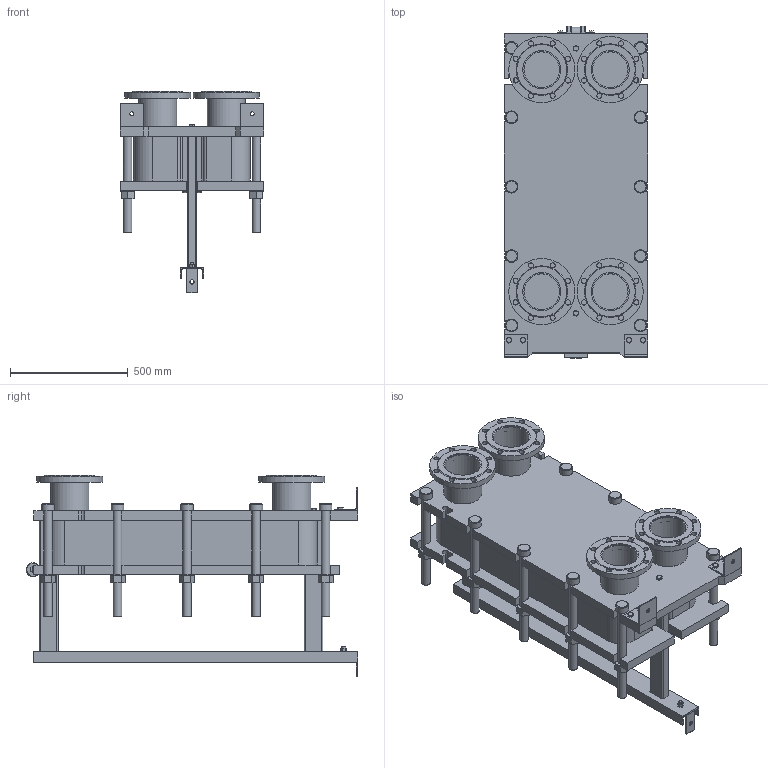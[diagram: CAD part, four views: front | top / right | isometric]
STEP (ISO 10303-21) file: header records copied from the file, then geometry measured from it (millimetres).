
FILE_DESCRIPTION(/* description */ (''),/* implementation_level */ '2;1');
FILE_NAME(/* name */ 'C:\Users\zhuro\Desktop\ENCO\TO\ЭН-041\ЭН-0,5-041-55-1.stp',/* time_stamp */ '2022-06-06T10:53:32+03:00',/* author */ ('zhuro'),/* organization */ (''),/* preprocessor_version */ 'ST-DEVELOPER v18.1',/* originating_system */ 'Autodesk Inventor 2022',/* authorisation */ '');
FILE_SCHEMA (('AUTOMOTIVE_DESIGN { 1 0 10303 214 3 1 1 }'));
Length unit declared in the file: millimetre
Products named in the file (1): ЭН-0,5-041-55-1
Bounding box: 610 x 1406.5 x 852.5 mm (x, y, z)
Volume: 184033360.4 mm3; surface area: 8032298 mm2
Topology: 52 solids, 52 shells, 711 faces, 1696 edges, 1094 vertices
Faces by surface type: plane 487, cylinder 177, cone 41, torus 6
Full cylindrical faces by diameter (mm): 8 x4, 10 x2, 16 x8, 18 x3, 22 x32, 36 x24, 50 x1, 54 x10, 60 x12, 151 x4, 161 x8, 280 x4
Entity records: 22667 total; most frequent: CARTESIAN_POINT 5230, DIRECTION 3644, ORIENTED_EDGE 3392, EDGE_CURVE 1696, AXIS2_PLACEMENT_3D 1272, LINE 1100, VECTOR 1100, VERTEX_POINT 1094
